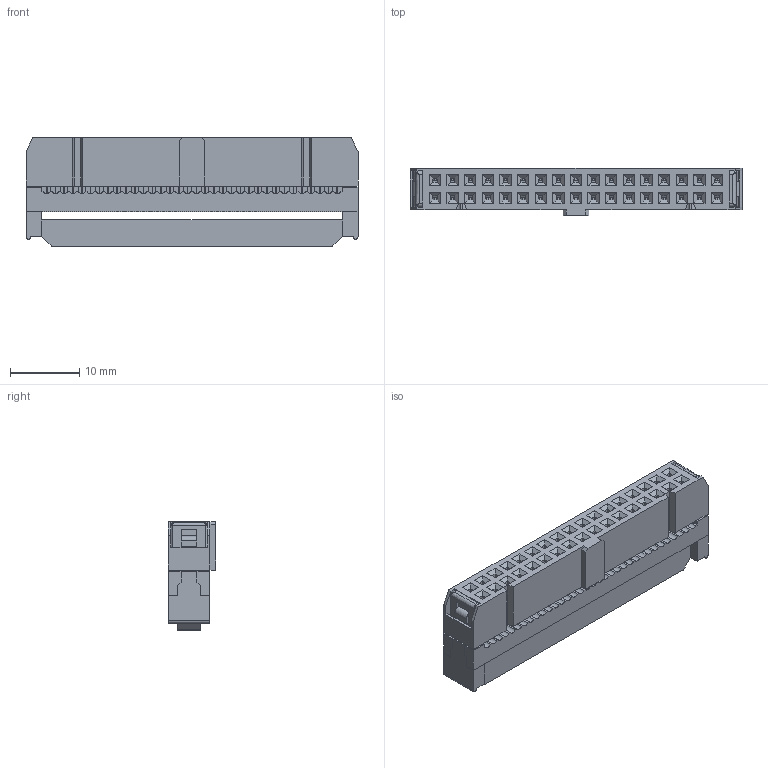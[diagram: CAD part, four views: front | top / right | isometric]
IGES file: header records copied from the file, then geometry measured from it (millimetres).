
Global section: file name: Filename.iges; native system: Open CASCADE 7.3; preprocessor: Open CASCADE IGES processor 7.3; date: 20201209.080523; units: millimetre
Bounding box: 47.86 x 6.86 x 15.7 mm (x, y, z)
Surface area: 5976.4 mm2 (no closed solid volume)
Topology: 0 solids, 0 shells, 1996 faces, 11038 edges, 11030 vertices
Faces by surface type: plane 1523, revolution 458, extrusion 11, bspline 4
